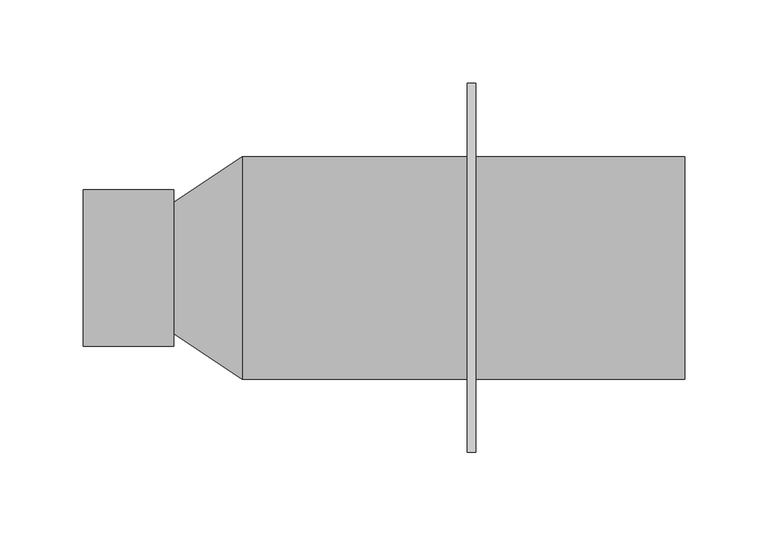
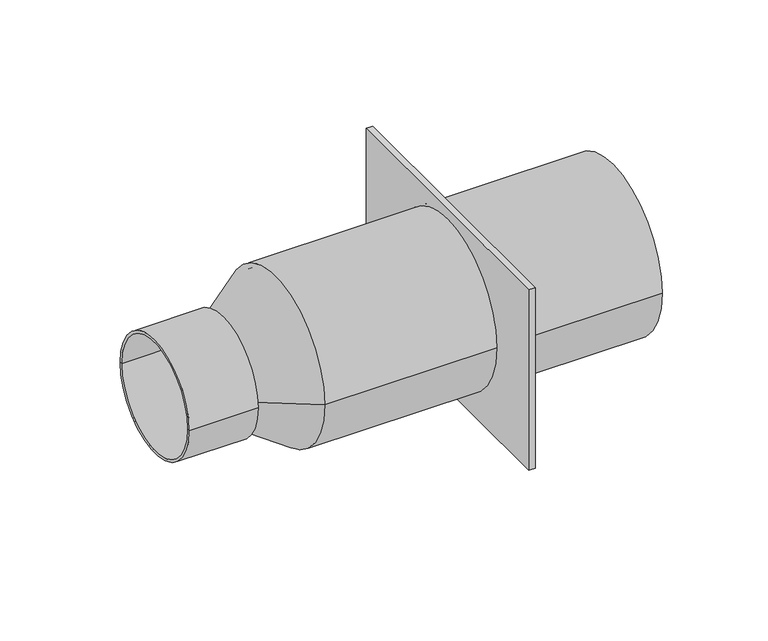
"""IFC4 building model written with IfcOpenShell, lengths in millimetres: duct fitting geometry, NLRS_57_DUF_UN_terminal connection straight_M&G : ø117 - ø125 / ø92."""

import ifcopenshell
import ifcopenshell.guid

model = None  # the IFC model being written
_history = None  # IfcOwnerHistory: only IFC2X3 demands one
_inside = {}  # id of a spatial element -> (the spatial element, [elements in it])
_under = {}  # id of a project, library or spatial element -> (it, [spatial elements below it])
_declared = {}  # id of a project -> (the project, [libraries it declares])
_typed = {}  # id of a type object -> (the type object, [elements of that type])
_made_of = {}  # id of a material, layer set ... -> (it, [elements and type objects made of it])


def new_model(schema):
    """Start an empty IFC model of exactly this schema.

    Asked for "IFC4X3", IfcOpenShell would pick the latest addendum, in which some entities
    have other attributes; the version numbers below select the first issue.
    IFC2X3 requires an IfcOwnerHistory on every rooted entity: one is made here for all.
    """
    global model, _history
    if schema == "IFC4X3":
        model = ifcopenshell.file(schema_version=(4, 3, 0, 0))
    else:
        model = ifcopenshell.file(schema=schema)
    _inside.clear()
    _under.clear()
    _declared.clear()
    _typed.clear()
    _made_of.clear()
    _history = None
    if model.schema == "IFC2X3":
        org = make("IfcOrganization", Name="unknown")
        user = make(
            "IfcPersonAndOrganization",
            ThePerson=make("IfcPerson", FamilyName="unknown"),
            TheOrganization=org,
        )
        app = make(
            "IfcApplication",
            ApplicationDeveloper=org,
            Version="unknown",
            ApplicationFullName="unknown",
            ApplicationIdentifier="unknown",
        )
        _history = make(
            "IfcOwnerHistory",
            OwningUser=user,
            OwningApplication=app,
            ChangeAction="ADDED",
            CreationDate=0,
        )
    return model


def make(cls, **values):
    """One entity of the class cls with the attributes given. An attribute that is None is left unset."""
    return model.create_entity(
        cls, **{name: value for name, value in values.items() if value is not None}
    )


def rooted(cls, **values):
    """An entity with a GlobalId (a new one), such as an element, a storey or a relation."""
    return make(cls, GlobalId=ifcopenshell.guid.new(), OwnerHistory=_history, **values)


def si_unit(unit_type, name, prefix=None):
    """IfcSIUnit, for example si_unit("LENGTHUNIT", "METRE", prefix="MILLI")."""
    return make("IfcSIUnit", UnitType=unit_type, Prefix=prefix, Name=name)


def assignment(units):
    """IfcUnitAssignment: the units of a project."""
    return None if units is None else make("IfcUnitAssignment", Units=units)


def point(xyz):
    """IfcCartesianPoint."""
    return None if xyz is None else make("IfcCartesianPoint", Coordinates=xyz)


def direction(xyz):
    """IfcDirection."""
    return None if xyz is None else make("IfcDirection", DirectionRatios=xyz)


def frame(location, z_axis=None, x_axis=None):
    """IfcAxis2Placement3D, a coordinate frame: its origin and axes. An axis left out is left unset."""
    return make(
        "IfcAxis2Placement3D",
        Location=point(location),
        Axis=direction(z_axis),
        RefDirection=direction(x_axis),
    )


def frame_2d(location, x_axis=None):
    """IfcAxis2Placement2D, a coordinate frame in the plane: its origin and x axis."""
    return make(
        "IfcAxis2Placement2D", Location=point(location), RefDirection=direction(x_axis)
    )


def origin():
    """The frame at (0, 0, 0) with its axes left unset."""
    return frame((0.0, 0.0, 0.0))


def origin_2d():
    """The frame at (0, 0) in the plane with its x axis left unset."""
    return frame_2d((0.0, 0.0))


def place(relative_to, where):
    """IfcLocalPlacement: puts the frame where relative to a parent placement (None: the world)."""
    return make(
        "IfcLocalPlacement", PlacementRelTo=relative_to, RelativePlacement=where
    )


def context(
    kind, dimensions, precision=None, world=None, true_north=None, identifier=None
):
    """IfcGeometricRepresentationContext, for example the 3D "Model" context."""
    return make(
        "IfcGeometricRepresentationContext",
        ContextIdentifier=identifier,
        ContextType=kind,
        CoordinateSpaceDimension=dimensions,
        Precision=precision,
        WorldCoordinateSystem=world,
        TrueNorth=true_north,
    )


def project(units=None, contexts=None):
    """IfcProject with its units and contexts."""
    return rooted(
        "IfcProject",
        Name="project",
        RepresentationContexts=contexts,
        UnitsInContext=assignment(units),
    )


def spatial(cls, under=None, at=None, **own):
    """A site, building, storey or space (cls), placed at a placement, below another one or the project."""
    s = rooted(cls, ObjectPlacement=at, **own)
    if under is not None:
        _under.setdefault(under.id(), (under, []))[1].append(s)
    return s


def polyline(points):
    """IfcPolyline through the points."""
    return make("IfcPolyline", Points=[point(p) for p in points])


def circle_curve(where, radius):
    """IfcCircle in the frame where."""
    return make("IfcCircle", Position=where, Radius=radius)


def trimmed(basis, trim1, trim2, sense, master):
    """IfcTrimmedCurve: the piece of a basis curve between two trims."""
    return make(
        "IfcTrimmedCurve",
        BasisCurve=basis,
        Trim1=trim1,
        Trim2=trim2,
        SenseAgreement=sense,
        MasterRepresentation=master,
    )


def segment(curve, same_sense, transition):
    """IfcCompositeCurveSegment."""
    return make(
        "IfcCompositeCurveSegment",
        Transition=transition,
        SameSense=same_sense,
        ParentCurve=curve,
    )


def composite_curve(segments, self_intersect=None):
    """IfcCompositeCurve: segments joined end to end."""
    return make("IfcCompositeCurve", Segments=segments, SelfIntersect=self_intersect)


def outline(outer, holes=None, kind="AREA"):
    """IfcArbitraryClosedProfileDef: a profile drawn as a closed curve; with holes, ...WithVoids."""
    if holes is None:
        return make("IfcArbitraryClosedProfileDef", ProfileType=kind, OuterCurve=outer)
    return make(
        "IfcArbitraryProfileDefWithVoids",
        ProfileType=kind,
        OuterCurve=outer,
        InnerCurves=holes,
    )


def extrude(swept, where, along, depth):
    """IfcExtrudedAreaSolid: the profile swept, set in the frame where, extruded along a direction by depth."""
    return make(
        "IfcExtrudedAreaSolid",
        SweptArea=swept,
        Position=where,
        ExtrudedDirection=direction(along),
        Depth=depth,
    )


def shape(context_of_items, identifier, shape_type, items):
    """IfcShapeRepresentation: the items that make up one representation, for example the "Body"."""
    return make(
        "IfcShapeRepresentation",
        ContextOfItems=context_of_items,
        RepresentationIdentifier=identifier,
        RepresentationType=shape_type,
        Items=items,
    )


def source(mapping_origin, context_of_items, identifier, shape_type, items):
    """IfcRepresentationMap: a shape defined once, which mapped items show again and again."""
    return make(
        "IfcRepresentationMap",
        MappingOrigin=mapping_origin,
        MappedRepresentation=shape(context_of_items, identifier, shape_type, items),
    )


def transform(
    local_origin,
    x_axis=None,
    y_axis=None,
    z_axis=None,
    scale=None,
    scale2=None,
    scale3=None,
    uniform=True,
):
    """IfcCartesianTransformationOperator3D, or its non-uniform kind. x_axis, y_axis, z_axis: its Axis1, 2, 3."""
    if uniform:
        return make(
            "IfcCartesianTransformationOperator3D",
            Axis1=direction(x_axis),
            Axis2=direction(y_axis),
            LocalOrigin=point(local_origin),
            Scale=scale,
            Axis3=direction(z_axis),
        )
    return make(
        "IfcCartesianTransformationOperator3DnonUniform",
        Axis1=direction(x_axis),
        Axis2=direction(y_axis),
        LocalOrigin=point(local_origin),
        Scale=scale,
        Axis3=direction(z_axis),
        Scale2=scale2,
        Scale3=scale3,
    )


def mapped(mapping_source, mapping_target):
    """IfcMappedItem: shows the shape of a source again, moved by a transform."""
    return make(
        "IfcMappedItem", MappingSource=mapping_source, MappingTarget=mapping_target
    )


def made_of(thing, what):
    """Note that an element or type object is made of a material, layer set ...; save() writes the relation."""
    if what is not None:
        _made_of.setdefault(what.id(), (what, []))[1].append(thing)
    return thing


def element(
    cls,
    number,
    at=None,
    inside=None,
    cuts=None,
    type_object=None,
    material=None,
    context=None,
    identifier="Body",
    shape_type=None,
    held_by="IfcProductDefinitionShape",
    body=None,
    shapes=None,
    **own,
):
    """One element of the class cls, such as IfcWall. Its Tag is "e" and its number.

    at: its placement. inside: the storey or other place that contains it. cuts: it is an
    opening in that element (IfcRelVoidsElement). A single representation is given by context,
    identifier, shape_type and body (its items); several are given by shapes. held_by: the class
    of the entity that holds the representations. save() writes the other relations.
    """
    e = rooted(cls, Tag="e%d" % number, ObjectPlacement=at, **own)
    if body is not None:
        shapes = [shape(context, identifier, shape_type, body)]
    if shapes is not None:
        e.Representation = make(held_by, Representations=shapes)
    if inside is not None:
        _inside.setdefault(inside.id(), (inside, []))[1].append(e)
    if cuts is not None:
        rooted(
            "IfcRelVoidsElement", RelatingBuildingElement=cuts, RelatedOpeningElement=e
        )
    if type_object is not None:
        _typed.setdefault(type_object.id(), (type_object, []))[1].append(e)
    return made_of(e, material)


def aggregate(whole, parts):
    """IfcRelAggregates: a whole, such as a stair, and the parts it consists of."""
    return rooted("IfcRelAggregates", RelatingObject=whole, RelatedObjects=parts)


def save(model, path):
    """Write the relations noted so far, then the file.

    IfcRelAggregates (storeys below a building ...), IfcRelContainedInSpatialStructure (elements
    in a storey), IfcRelDefinesByType, IfcRelAssociatesMaterial and IfcRelDeclares: one each for
    every whole, place, type object, material and project.
    """
    for whole, parts in _under.values():
        aggregate(whole, parts)
    for where, things in _inside.values():
        rooted(
            "IfcRelContainedInSpatialStructure",
            RelatedElements=things,
            RelatingStructure=where,
        )
    for kind, things in _typed.values():
        rooted("IfcRelDefinesByType", RelatedObjects=things, RelatingType=kind)
    for what, things in _made_of.values():
        rooted("IfcRelAssociatesMaterial", RelatedObjects=things, RelatingMaterial=what)
    for by, libraries in _declared.values():
        rooted("IfcRelDeclares", RelatingContext=by, RelatedDefinitions=libraries)
    model.write(path)


def plane_surface(at):
    """IfcPlane: the flat surface through the origin of the frame at, square to its z axis."""
    return make("IfcPlane", Position=at)


def cylinder_surface(at, radius):
    """IfcCylindricalSurface: all points at the distance radius from the z axis of the frame at."""
    return make("IfcCylindricalSurface", Position=at, Radius=radius)


def revolved_surface(curve, axis_point, axis_direction):
    """IfcSurfaceOfRevolution: the curve turned about the line through axis_point along axis_direction."""
    return make(
        "IfcSurfaceOfRevolution",
        SweptCurve=make("IfcArbitraryOpenProfileDef", ProfileType="CURVE", Curve=curve),
        AxisPosition=make("IfcAxis1Placement", Location=point(axis_point), Axis=direction(axis_direction)),
    )


def advanced_brep(points, edges, surfaces, faces):
    """IfcAdvancedBrep: a solid bounded by faces that lie on surfaces and meet in shared edges.

    An edge is (start, end): straight between two places in points (the first is 0);
    or (start, end, curve); or (start, end, curve, False) where it runs against its curve.
    A face is (place in surfaces, loops), or (place, loops, False) where it looks against
    its surface's normal. A loop lists edges by number (the first is 1), with a minus sign
    where the edge is run from its end to its start. The first loop is the outer one.
    """
    corners = [point(p) for p in points]
    vertices = [make("IfcVertexPoint", VertexGeometry=c) for c in corners]
    made = []
    for start, end, *more in edges:
        made.append(
            make(
                "IfcEdgeCurve",
                EdgeStart=vertices[start],
                EdgeEnd=vertices[end],
                EdgeGeometry=more[0] if more else make("IfcPolyline", Points=[corners[start], corners[end]]),
                SameSense=more[1] if len(more) > 1 else True,
            )
        )
    hull = []
    for where, loops, *sense in faces:
        bounds = []
        for j, loop in enumerate(loops):
            ring = [make("IfcOrientedEdge", EdgeElement=made[abs(k) - 1], Orientation=k > 0) for k in loop]
            bounds.append(
                make(
                    "IfcFaceOuterBound" if j == 0 else "IfcFaceBound",
                    Bound=make("IfcEdgeLoop", EdgeList=ring),
                    Orientation=True,
                )
            )
        hull.append(make("IfcAdvancedFace", Bounds=bounds, FaceSurface=surfaces[where], SameSense=sense[0] if sense else True))
    return make("IfcAdvancedBrep", Outer=make("IfcClosedShell", CfsFaces=hull))


def duct_fitting_a03f7b8a(model_context):
    return source(origin(), model_context, "Body", "SolidModel", [
        advanced_brep(
        [(54.0, -39.5, 0.0), (54.0, 39.5, 0.0), (95.0, 66.5, 0.0), (95.0, -66.5, 0.0), (360.0, -66.5, 0.0), (360.0, 66.5, 0.0), (360.0, 62.5, 0.0), (360.0, -62.5, 0.0), (54.0, -47.0, 0.0), (54.0, 47.0, 0.0), (0.0, -47.0, 0.0), (0.0, 47.0, 0.0), (0.0, -45.0, 0.0), (0.0, 45.0, 0.0), (52.5, -45.0, 0.0), (52.5, 45.0, 0.0), (52.5, -33.722756, 0.0), (52.5, 33.722756, 0.0), (96.1987779, -62.5, 0.0), (96.1987779, 62.5, 0.0)],
        [
            (0, 1, circle_curve(frame((54.0, 0.0, 0.0), z_axis=(1.0, 0.0, 0.0), x_axis=(0.0, 1.0, 0.0)), 39.5)),
            (1, 2),
            (2, 3, circle_curve(frame((95.0, 0.0, 0.0), z_axis=(-1.0, 0.0, 0.0), x_axis=(0.0, 1.0, 0.0)), 66.5)),
            (3, 0),
            (1, 0, circle_curve(frame((54.0, 0.0, 0.0), z_axis=(1.0, 0.0, 0.0), x_axis=(0.0, 1.0, 0.0)), 39.5)),
            (3, 2, circle_curve(frame((95.0, 0.0, 0.0), z_axis=(-1.0, 0.0, 0.0), x_axis=(0.0, 1.0, 0.0)), 66.5)),
            (4, 5, circle_curve(frame((360.0, 0.0, 0.0), z_axis=(1.0, 0.0, 0.0), x_axis=(0.0, 1.0, 0.0)), 66.5)),
            (5, 6),
            (6, 7, circle_curve(frame((360.0, 0.0, 0.0), z_axis=(-1.0, 0.0, 0.0), x_axis=(0.0, 1.0, 0.0)), 62.5)),
            (7, 4),
            (5, 4, circle_curve(frame((360.0, 0.0, 0.0), z_axis=(1.0, 0.0, 0.0), x_axis=(0.0, 1.0, 0.0)), 66.5)),
            (7, 6, circle_curve(frame((360.0, 0.0, 0.0), z_axis=(-1.0, 0.0, 0.0), x_axis=(0.0, 1.0, 0.0)), 62.5)),
            (2, 5),
            (4, 3),
            (8, 9, circle_curve(frame((54.0, 0.0, 0.0), z_axis=(1.0, 0.0, 0.0), x_axis=(0.0, 1.0, 0.0)), 47.0)),
            (9, 1),
            (0, 8),
            (9, 8, circle_curve(frame((54.0, 0.0, 0.0), z_axis=(1.0, 0.0, 0.0), x_axis=(0.0, 1.0, 0.0)), 47.0)),
            (10, 11, circle_curve(frame((0.0, 0.0, 0.0), z_axis=(1.0, 0.0, 0.0), x_axis=(0.0, 1.0, 0.0)), 47.0)),
            (11, 9),
            (8, 10),
            (11, 10, circle_curve(frame((0.0, 0.0, 0.0), z_axis=(1.0, 0.0, 0.0), x_axis=(0.0, 1.0, 0.0)), 47.0)),
            (12, 13, circle_curve(frame((0.0, 0.0, 0.0), z_axis=(1.0, 0.0, 0.0), x_axis=(0.0, 1.0, 0.0)), 45.0)),
            (13, 11),
            (10, 12),
            (13, 12, circle_curve(frame((0.0, 0.0, 0.0), z_axis=(1.0, 0.0, 0.0), x_axis=(0.0, 1.0, 0.0)), 45.0)),
            (14, 15, circle_curve(frame((52.5, 0.0, 0.0), z_axis=(1.0, 0.0, 0.0), x_axis=(0.0, 1.0, 0.0)), 45.0)),
            (15, 13),
            (12, 14),
            (15, 14, circle_curve(frame((52.5, 0.0, 0.0), z_axis=(1.0, 0.0, 0.0), x_axis=(0.0, 1.0, 0.0)), 45.0)),
            (16, 17, circle_curve(frame((52.5, 0.0, 0.0), z_axis=(1.0, 0.0, 0.0), x_axis=(0.0, 1.0, 0.0)), 33.722756)),
            (17, 15),
            (14, 16),
            (17, 16, circle_curve(frame((52.5, 0.0, 0.0), z_axis=(1.0, 0.0, 0.0), x_axis=(0.0, 1.0, 0.0)), 33.722756)),
            (18, 19, circle_curve(frame((96.1987779, 0.0, 0.0), z_axis=(1.0, 0.0, 0.0), x_axis=(0.0, 1.0, 0.0)), 62.5)),
            (19, 17),
            (16, 18),
            (19, 18, circle_curve(frame((96.1987779, 0.0, 0.0), z_axis=(1.0, 0.0, 0.0), x_axis=(0.0, 1.0, 0.0)), 62.5)),
            (6, 19),
            (18, 7),
        ],
        [
            revolved_surface(polyline([(95.0, 66.5, 0.0), (54.0, 39.5, 0.0)]), (0.0, 0.0, 0.0), (-1.0, 0.0, 0.0)),
            plane_surface(frame((360.0, 0.0, 0.0), z_axis=(1.0, 0.0, 0.0), x_axis=(0.0, 1.0, 0.0))),
            cylinder_surface(frame((0.0, 0.0, 0.0), z_axis=(-1.0, 0.0, 0.0), x_axis=(0.0, 1.0, 0.0)), 66.5),
            plane_surface(frame((54.0, 0.0, 0.0), z_axis=(1.0, 0.0, 0.0), x_axis=(0.0, 1.0, 0.0))),
            cylinder_surface(frame((0.0, 0.0, 0.0), z_axis=(-1.0, 0.0, 0.0), x_axis=(0.0, 1.0, 0.0)), 47.0),
            plane_surface(frame((0.0, 0.0, 0.0), z_axis=(-1.0, 0.0, 0.0), x_axis=(0.0, 1.0, 0.0))),
            revolved_surface(polyline([(0.0, 45.0, 0.0), (52.5, 45.0, 0.0)]), (0.0, 0.0, 0.0), (-1.0, 0.0, 0.0)),
            plane_surface(frame((52.5, 0.0, 0.0), z_axis=(-1.0, 0.0, 0.0), x_axis=(0.0, 1.0, 0.0))),
            revolved_surface(polyline([(52.5, 33.722756, 0.0), (96.1987779, 62.5, 0.0)]), (0.0, 0.0, 0.0), (-1.0, 0.0, 0.0)),
            revolved_surface(polyline([(96.1987779, 62.5, 0.0), (360.0, 62.5, 0.0)]), (0.0, 0.0, 0.0), (-1.0, 0.0, 0.0)),
        ],
        [
            (0, [[1, 2, 3, 4]]),
            (0, [[5, -4, 6, -2]]),
            (1, [[7, 8, 9, 10]]),
            (1, [[11, -10, 12, -8]]),
            (2, [[-3, 13, -7, 14]]),
            (2, [[-6, -14, -11, -13]]),
            (3, [[15, 16, -1, 17]]),
            (3, [[18, -17, -5, -16]]),
            (4, [[19, 20, -15, 21]]),
            (4, [[22, -21, -18, -20]]),
            (5, [[23, 24, -19, 25]]),
            (5, [[26, -25, -22, -24]]),
            (6, [[27, 28, -23, 29]]),
            (6, [[30, -29, -26, -28]]),
            (7, [[31, 32, -27, 33]]),
            (7, [[34, -33, -30, -32]]),
            (8, [[35, 36, -31, 37]]),
            (8, [[38, -37, -34, -36]]),
            (9, [[-9, 39, -35, 40]]),
            (9, [[-12, -40, -38, -39]]),
        ],
    ),
        extrude(outline(polyline([(-110.5, 75.0), (110.5, 75.0), (110.5, -75.0), (-110.5, -75.0), (-110.5, 75.0)]), holes=[composite_curve([segment(trimmed(circle_curve(origin_2d(), 66.5), [point((-66.5, 0.0))], [point((66.5, 0.0))], True, "CARTESIAN"), True, "CONTINUOUS"), segment(trimmed(circle_curve(origin_2d(), 66.5), [point((66.5, 0.0))], [point((-66.5, 0.0))], True, "CARTESIAN"), True, "CONTINUOUS")], self_intersect=False)]), frame((230.0, 0.0, 0.0), z_axis=(1.0, 0.0, 0.0), x_axis=(0.0, 1.0, 0.0)), (0.0, 0.0, 1.0), 5.0),
    ])


if __name__ == "__main__":
    model = new_model("IFC4")
    model_context = context("Model", 3, world=origin())
    ifc_project = project(units=[si_unit("LENGTHUNIT", "METRE", prefix="MILLI")], contexts=[model_context])
    site = spatial("IfcSite", under=ifc_project)
    building = spatial("IfcBuilding", under=site)
    placement = place(None, origin())
    duct_fitting_shape = duct_fitting_a03f7b8a(model_context)
    element("IfcDuctFitting", 1, ObjectType="NLRS_57_DUF_UN_terminal connection straight_M&G : ø117 - ø125 / ø92", at=placement, inside=building, context=model_context, shape_type="MappedRepresentation", body=[
        mapped(duct_fitting_shape, transform((0.0, 0.0, 0.0), x_axis=(1.0, 0.0, 0.0), y_axis=(0.0, 1.0, 0.0), z_axis=(0.0, 0.0, 1.0))),
    ])
    save(model, "model.ifc")
